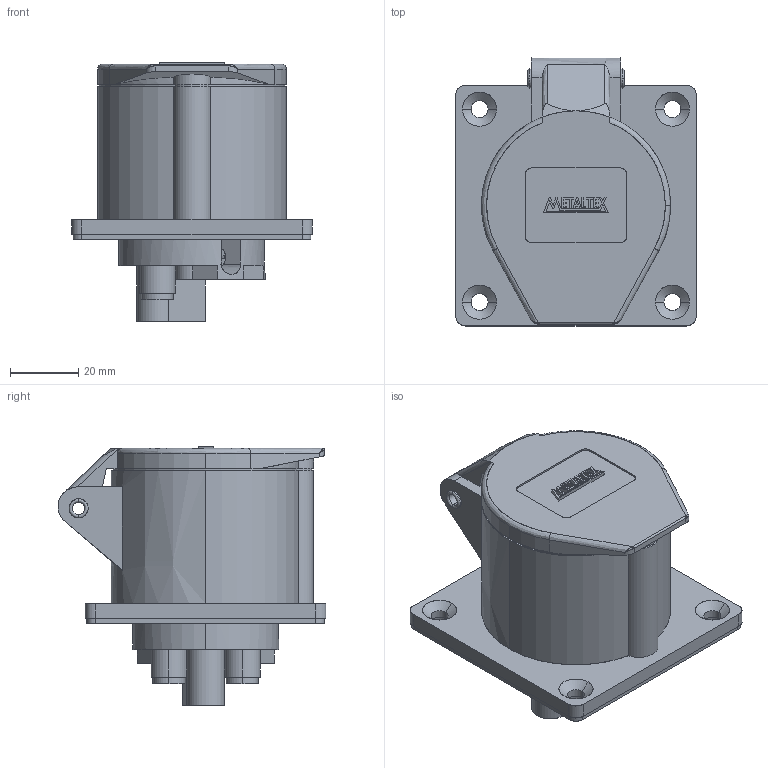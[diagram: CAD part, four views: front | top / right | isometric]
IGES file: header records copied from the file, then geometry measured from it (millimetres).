
Start section: SolidWorks IGES file using analytic representation for surfaces
Global section: file name: D:\X - Arquivos\PROEX\Empresas\P11 - METALTEX\01 - Produtos\IGES\4ª remessa\3ª etapa\TLR16442.IGS; native system: SolidWorks 2012; preprocessor: SolidWorks 2012; author: Usuario; date: 180418.161428; units: millimetre
Bounding box: 70.5 x 78.42 x 75.8 mm (x, y, z)
Surface area: 29311.2 mm2 (no closed solid volume)
Topology: 0 solids, 0 shells, 406 faces, 5860 edges, 5859 vertices
Faces by surface type: bspline 266, revolution 140
